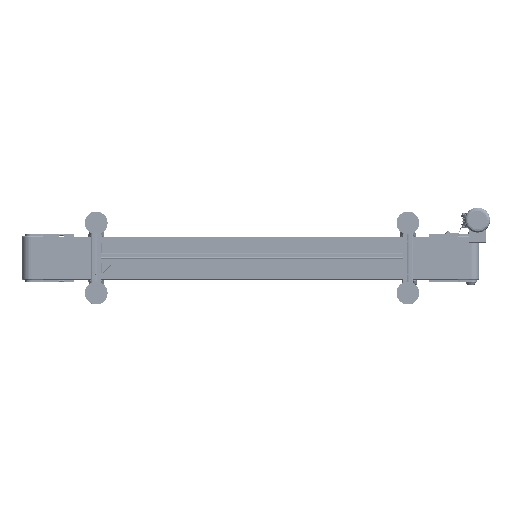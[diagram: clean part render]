
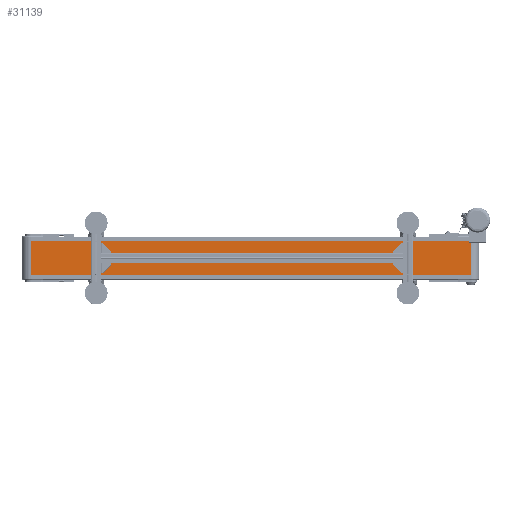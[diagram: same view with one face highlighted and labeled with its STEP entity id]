
A CAD part, front view. The second image highlights one B-rep face of the part: STEP entity #31139.
In plain terms, the highlighted planar face has unit normal (0, -1, 0).
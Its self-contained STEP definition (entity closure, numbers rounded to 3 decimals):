
#739 = LINE ( 'NONE', #31075, #108377 ) ;
#2500 = DIRECTION ( 'NONE',  ( 1., 0., 0. ) ) ;
#9923 = CARTESIAN_POINT ( 'NONE',  ( -76.2, -77.4, 1935. ) ) ;
#10172 = DIRECTION ( 'NONE',  ( 0., 0., 1. ) ) ;
#27859 = CARTESIAN_POINT ( 'NONE',  ( 76.2, -77.4, 1935. ) ) ;
#31075 = CARTESIAN_POINT ( 'NONE',  ( 76.2, -77.4, 0. ) ) ;
#31139 = ADVANCED_FACE ( 'NONE', ( #102820 ), #169885, .T. ) ;
#36774 = VERTEX_POINT ( 'NONE', #162017 ) ;
#41338 = ORIENTED_EDGE ( 'NONE', *, *, #118473, .T. ) ;
#53202 = VECTOR ( 'NONE', #76477, 1000. ) ;
#53764 = EDGE_CURVE ( 'NONE', #162192, #135155, #57130, .T. ) ;
#57130 = LINE ( 'NONE', #150937, #152082 ) ;
#61765 = VERTEX_POINT ( 'NONE', #145104 ) ;
#69229 = ORIENTED_EDGE ( 'NONE', *, *, #163996, .T. ) ;
#76477 = DIRECTION ( 'NONE',  ( 0., 0., 1. ) ) ;
#80167 = CARTESIAN_POINT ( 'NONE',  ( 76.2, -77.4, 0. ) ) ;
#84179 = AXIS2_PLACEMENT_3D ( 'NONE', #80167, #90254, #157325 ) ;
#88044 = VECTOR ( 'NONE', #10172, 1000. ) ;
#90254 = DIRECTION ( 'NONE',  ( 0., -1., 0. ) ) ;
#91627 = LINE ( 'NONE', #144375, #53202 ) ;
#94509 = EDGE_CURVE ( 'NONE', #61765, #162192, #91627, .T. ) ;
#101231 = EDGE_LOOP ( 'NONE', ( #41338, #167119, #122398, #69229 ) ) ;
#102820 = FACE_OUTER_BOUND ( 'NONE', #101231, .T. ) ;
#108377 = VECTOR ( 'NONE', #2500, 1000. ) ;
#118473 = EDGE_CURVE ( 'NONE', #36774, #135155, #119193, .T. ) ;
#119193 = LINE ( 'NONE', #157634, #88044 ) ;
#122398 = ORIENTED_EDGE ( 'NONE', *, *, #94509, .F. ) ;
#135155 = VERTEX_POINT ( 'NONE', #27859 ) ;
#144375 = CARTESIAN_POINT ( 'NONE',  ( -76.2, -77.4, 0. ) ) ;
#145104 = CARTESIAN_POINT ( 'NONE',  ( -76.2, -77.4, 0. ) ) ;
#150937 = CARTESIAN_POINT ( 'NONE',  ( 76.2, -77.4, 1935. ) ) ;
#152082 = VECTOR ( 'NONE', #167040, 1000. ) ;
#157325 = DIRECTION ( 'NONE',  ( 0., 0., -1. ) ) ;
#157634 = CARTESIAN_POINT ( 'NONE',  ( 76.2, -77.4, 0. ) ) ;
#162017 = CARTESIAN_POINT ( 'NONE',  ( 76.2, -77.4, 0. ) ) ;
#162192 = VERTEX_POINT ( 'NONE', #9923 ) ;
#163996 = EDGE_CURVE ( 'NONE', #61765, #36774, #739, .T. ) ;
#167040 = DIRECTION ( 'NONE',  ( 1., 0., 0. ) ) ;
#167119 = ORIENTED_EDGE ( 'NONE', *, *, #53764, .F. ) ;
#169885 = PLANE ( 'NONE',  #84179 ) ;
